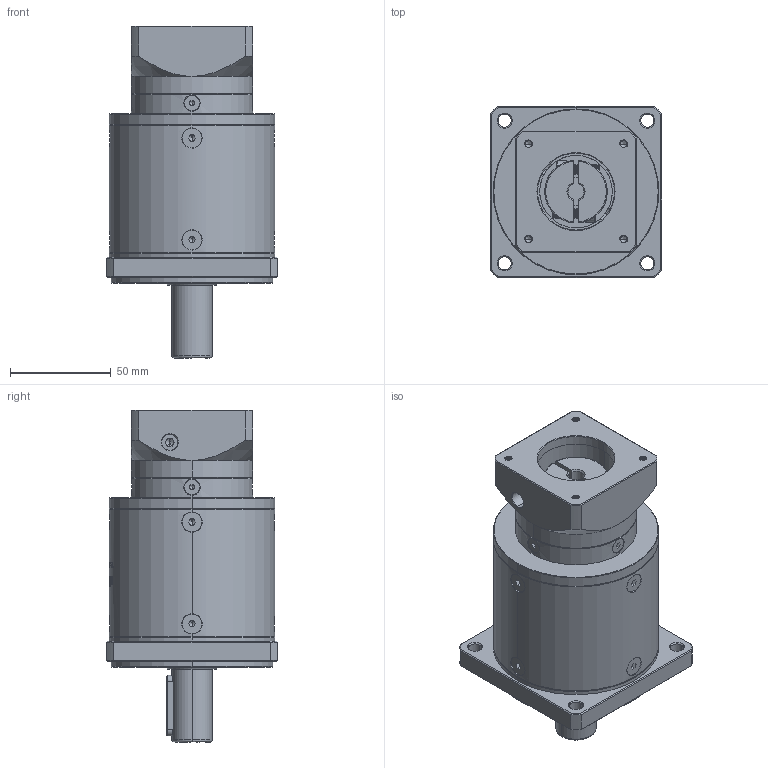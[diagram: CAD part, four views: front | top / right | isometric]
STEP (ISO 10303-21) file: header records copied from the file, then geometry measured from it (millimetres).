
FILE_DESCRIPTION (( 'STEP AP214' ), '1' );
FILE_NAME ('ZF80-D20-L3-8-38.1-47.14X47.14-M4.step', '2022-05-08T09:25:31', ( '' ), ( 'Microsoft' ), 'SwSTEP 2.0', 'SolidWorks 2016', '' );
FILE_SCHEMA (( 'AUTOMOTIVE_DESIGN' ));
Length unit declared in the file: millimetre
Products named in the file (1): ZF80-D20-L3-8-38.1-47.14X47.14-M4
Bounding box: 85 x 85 x 164.5 mm (x, y, z)
Volume: 577454.3 mm3; surface area: 72677.9 mm2
Topology: 18 solids, 18 shells, 2003 faces, 5243 edges, 3336 vertices
Faces by surface type: plane 948, cylinder 393, bspline 328, cone 320, torus 14
Entity records: 105462 total; most frequent: CARTESIAN_POINT 37544, ORIENTED_EDGE 10410, DIRECTION 8314, EDGE_CURVE 5205, VERTEX_POINT 3336, VECTOR 2802, LINE 2802, AXIS2_PLACEMENT_3D 2756
